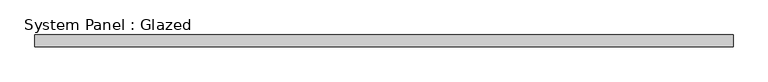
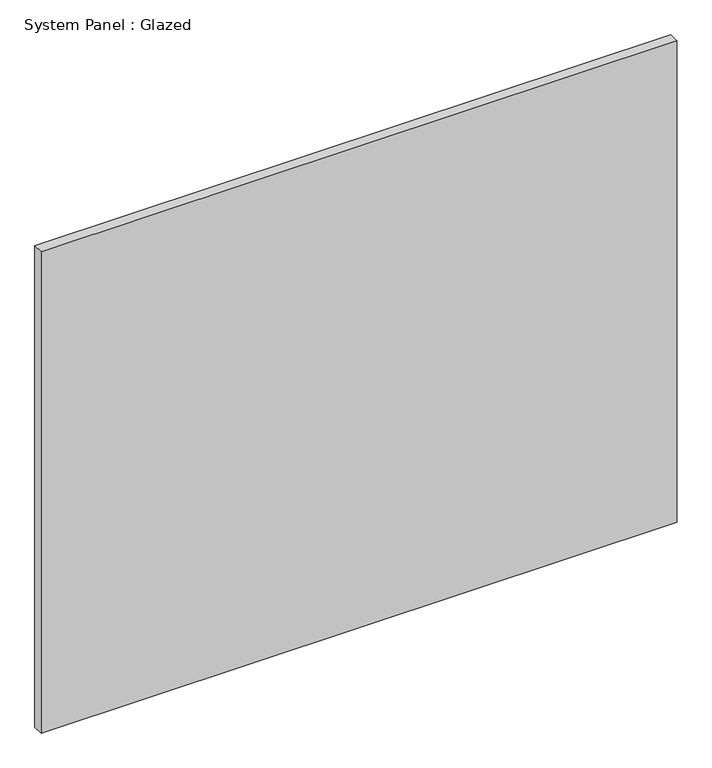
"""IFC4 building model written with IfcOpenShell, lengths in millimetres: plate geometry, System Panel : Glazed."""

from ifc_helpers import new_model, si_unit, origin, origin_with_axes, place, context, project, spatial, polyline, outline, extrude, source, transform, mapped, element, save


def system_panel_glazed_a80c9663(model_context):
    return source(origin(), model_context, "Body", "SweptSolid", [
        extrude(outline(polyline([(750.0000001, 24.5), (-750.0000001, 24.5), (-750.0000001, 49.5), (750.0000001, 49.5), (750.0000001, 24.5)])), origin_with_axes(), (0.0, 0.0, 1.0), 1200.0),
    ])


if __name__ == "__main__":
    model = new_model("IFC4")
    model_context = context("Model", 3, world=origin())
    ifc_project = project(units=[si_unit("LENGTHUNIT", "METRE", prefix="MILLI")], contexts=[model_context])
    site = spatial("IfcSite", under=ifc_project)
    building = spatial("IfcBuilding", under=site)
    placement = place(None, origin())
    system_panel_glazed_shape = system_panel_glazed_a80c9663(model_context)
    element("IfcPlate", 1, ObjectType="System Panel : Glazed", at=placement, inside=building, context=model_context, shape_type="MappedRepresentation", body=[
        mapped(system_panel_glazed_shape, transform((0.0, 0.0, 0.0), x_axis=(1.0, 0.0, 0.0), y_axis=(0.0, 1.0, 0.0), z_axis=(0.0, 0.0, 1.0))),
    ])
    save(model, "model.ifc")
